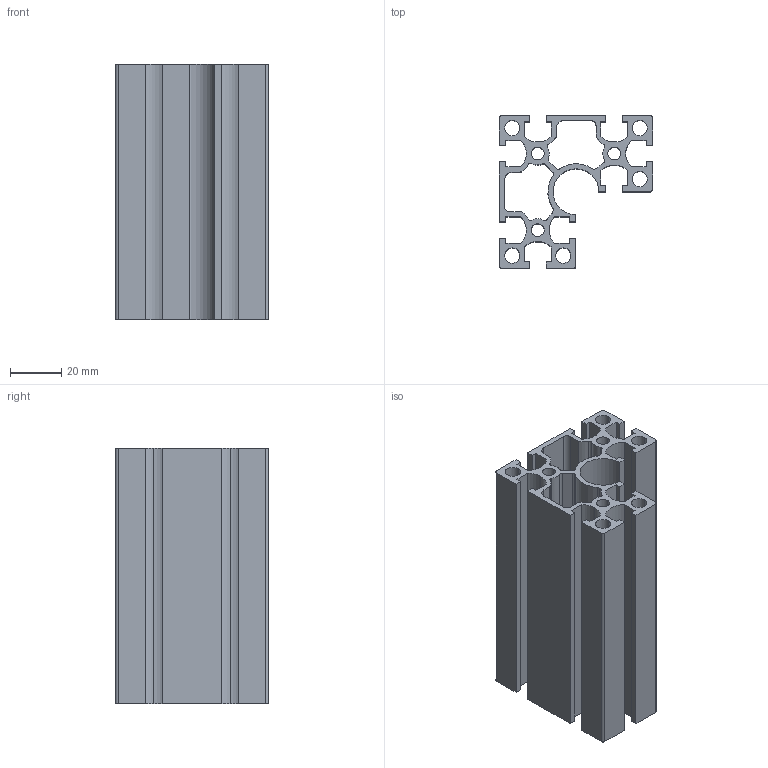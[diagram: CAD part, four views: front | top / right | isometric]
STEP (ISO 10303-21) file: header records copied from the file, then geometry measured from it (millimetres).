
FILE_DESCRIPTION (( 'STEP AP203' ), '1' );
FILE_NAME ('WS6630-6-.STEP', '2024-02-17T06:47:16', ( '' ), ( '' ), 'SwSTEP 2.0', 'SolidWorks 2022', '' );
FILE_SCHEMA (( 'CONFIG_CONTROL_DESIGN' ));
Length unit declared in the file: millimetre
Products named in the file (1): WS6630-6-
Bounding box: 60 x 60 x 100 mm (x, y, z)
Volume: 89602.8 mm3; surface area: 77656 mm2
Topology: 1 solids, 1 shells, 139 faces, 411 edges, 274 vertices
Faces by surface type: plane 72, cylinder 67
Entity records: 4796 total; most frequent: DIRECTION 825, CARTESIAN_POINT 825, ORIENTED_EDGE 822, EDGE_CURVE 411, VECTOR 277, LINE 277, VERTEX_POINT 274, AXIS2_PLACEMENT_3D 274
